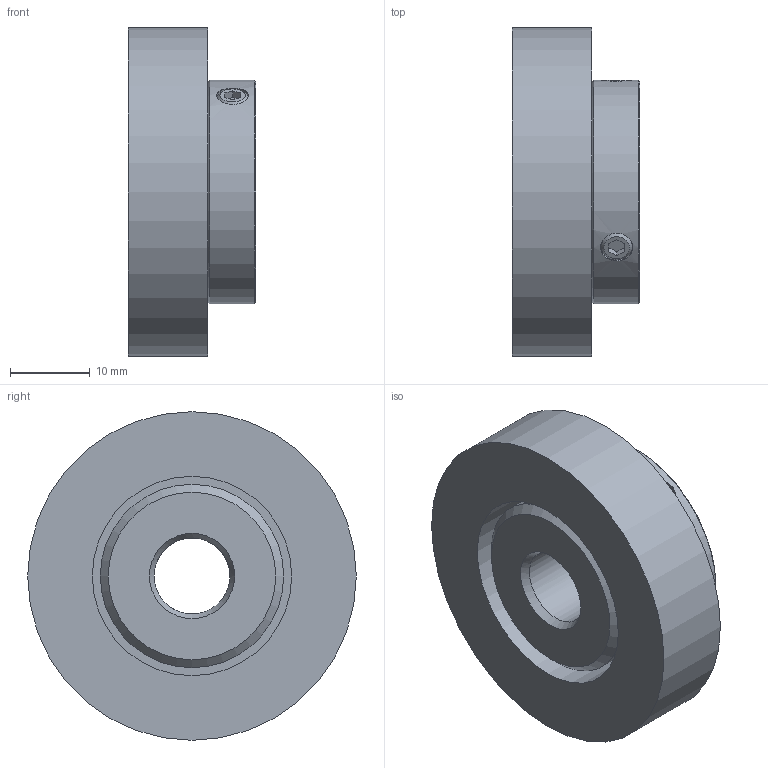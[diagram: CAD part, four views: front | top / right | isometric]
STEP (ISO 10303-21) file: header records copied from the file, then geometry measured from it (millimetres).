
FILE_DESCRIPTION (( 'STEP AP203' ), '1' );
FILE_NAME ('8.RI20.041.0952.111.STEP', '2013-07-30T11:49:58', ( 'Hodot' ), ( '' ), 'SwSTEP 2.0', 'SolidWorks 2012', '' );
FILE_SCHEMA (( 'CONFIG_CONTROL_DESIGN' ));
Length unit declared in the file: millimetre
Products named in the file (1): 8.RI20.041.0952.111
Bounding box: 16 x 41.2 x 41.2 mm (x, y, z)
Volume: 14814 mm3; surface area: 6894.6 mm2
Topology: 4 solids, 4 shells, 49 faces, 107 edges, 70 vertices
Faces by surface type: plane 26, cylinder 15, cone 8
Full cylindrical faces by diameter (mm): 2.5 x2, 4 x4, 9.525 x1, 23 x1, 25 x1, 28 x1, 41.2 x1
Entity records: 1465 total; most frequent: CARTESIAN_POINT 420, DIRECTION 200, ORIENTED_EDGE 160, AXIS2_PLACEMENT_3D 82, EDGE_CURVE 80, EDGE_LOOP 80, VERTEX_POINT 62, FACE_OUTER_BOUND 60
